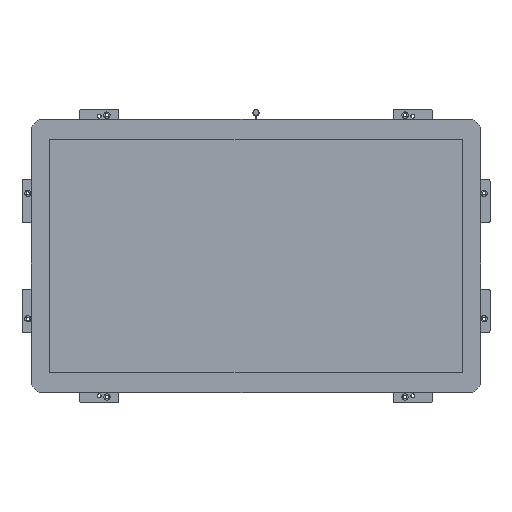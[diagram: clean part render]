
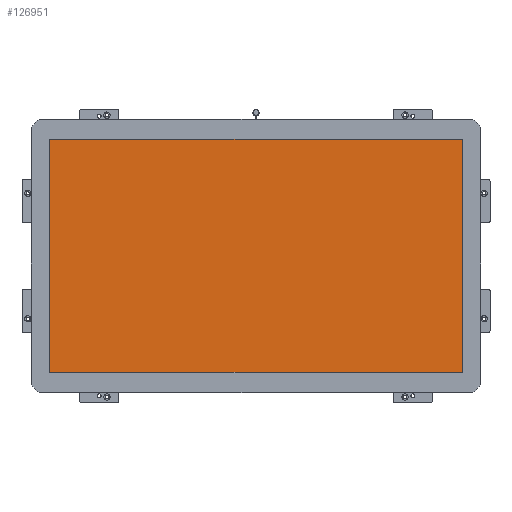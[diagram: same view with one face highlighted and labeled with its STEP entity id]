
A CAD part, top view. The second image highlights one B-rep face of the part: STEP entity #126951.
In plain terms, the highlighted planar face has unit normal (0, 0, 1).
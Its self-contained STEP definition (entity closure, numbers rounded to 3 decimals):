
#3187 = CARTESIAN_POINT ( 'NONE',  ( -262.77, -148.48, 19.15 ) ) ;
#6587 = CARTESIAN_POINT ( 'NONE',  ( -0.02, 0.02, 19.15 ) ) ;
#9152 = EDGE_CURVE ( 'NONE', #44812, #63185, #88345, .T. ) ;
#13044 = VECTOR ( 'NONE', #132040, 1000. ) ;
#13795 = CARTESIAN_POINT ( 'NONE',  ( 262.73, 148.52, 19.15 ) ) ;
#16151 = PLANE ( 'NONE',  #65944 ) ;
#23200 = EDGE_CURVE ( 'NONE', #24494, #35041, #101803, .T. ) ;
#24494 = VERTEX_POINT ( 'NONE', #13795 ) ;
#35041 = VERTEX_POINT ( 'NONE', #130303 ) ;
#37671 = DIRECTION ( 'NONE',  ( 0., -1., 0. ) ) ;
#44812 = VERTEX_POINT ( 'NONE', #3187 ) ;
#45995 = CARTESIAN_POINT ( 'NONE',  ( -0.02, -148.48, 19.15 ) ) ;
#48194 = DIRECTION ( 'NONE',  ( 0., 0., -1. ) ) ;
#48390 = LINE ( 'NONE', #79846, #99359 ) ;
#49084 = ORIENTED_EDGE ( 'NONE', *, *, #9152, .T. ) ;
#50548 = DIRECTION ( 'NONE',  ( -1., 0., 0. ) ) ;
#58455 = FACE_OUTER_BOUND ( 'NONE', #87779, .T. ) ;
#59138 = DIRECTION ( 'NONE',  ( 0., 1., 0. ) ) ;
#63185 = VERTEX_POINT ( 'NONE', #118944 ) ;
#65944 = AXIS2_PLACEMENT_3D ( 'NONE', #6587, #48194, #59138 ) ;
#79846 = CARTESIAN_POINT ( 'NONE',  ( 262.73, 0.02, 19.15 ) ) ;
#81725 = EDGE_CURVE ( 'NONE', #63185, #24494, #48390, .T. ) ;
#82179 = VECTOR ( 'NONE', #50548, 1000. ) ;
#86283 = ORIENTED_EDGE ( 'NONE', *, *, #134009, .T. ) ;
#86769 = ORIENTED_EDGE ( 'NONE', *, *, #23200, .T. ) ;
#87779 = EDGE_LOOP ( 'NONE', ( #86769, #86283, #49084, #132289 ) ) ;
#88345 = LINE ( 'NONE', #45995, #13044 ) ;
#88925 = LINE ( 'NONE', #93440, #99609 ) ;
#93440 = CARTESIAN_POINT ( 'NONE',  ( -262.77, 0.02, 19.15 ) ) ;
#99359 = VECTOR ( 'NONE', #120138, 1000. ) ;
#99609 = VECTOR ( 'NONE', #37671, 1000. ) ;
#101803 = LINE ( 'NONE', #133916, #82179 ) ;
#118944 = CARTESIAN_POINT ( 'NONE',  ( 262.73, -148.48, 19.15 ) ) ;
#120138 = DIRECTION ( 'NONE',  ( 0., 1., 0. ) ) ;
#126951 = ADVANCED_FACE ( 'NONE', ( #58455 ), #16151, .F. ) ;
#130303 = CARTESIAN_POINT ( 'NONE',  ( -262.77, 148.52, 19.15 ) ) ;
#132040 = DIRECTION ( 'NONE',  ( 1., 0., 0. ) ) ;
#132289 = ORIENTED_EDGE ( 'NONE', *, *, #81725, .T. ) ;
#133916 = CARTESIAN_POINT ( 'NONE',  ( -0.02, 148.52, 19.15 ) ) ;
#134009 = EDGE_CURVE ( 'NONE', #35041, #44812, #88925, .T. ) ;
